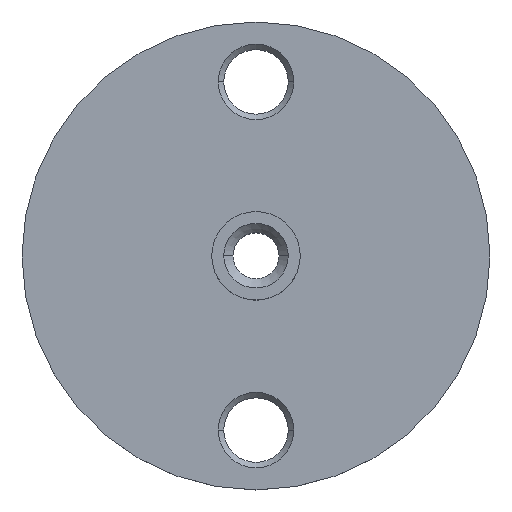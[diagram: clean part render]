
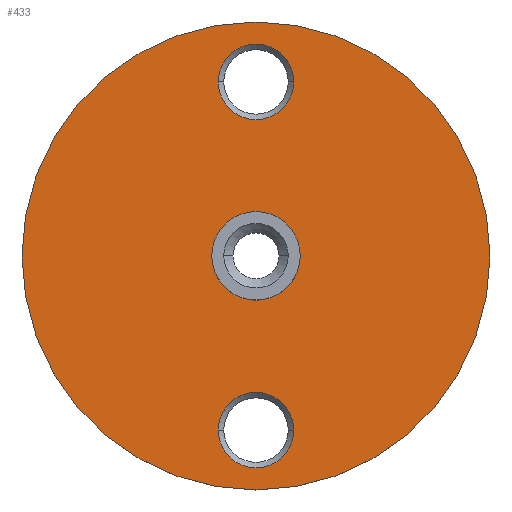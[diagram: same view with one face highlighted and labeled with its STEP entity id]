
A CAD part, top view. The second image highlights one B-rep face of the part: STEP entity #433.
In plain terms, the highlighted planar face has unit normal (0, 0, 1).
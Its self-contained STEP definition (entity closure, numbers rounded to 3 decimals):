
#3 = EDGE_CURVE ( 'NONE', #432, #485, #313, .T. ) ;
#5 = AXIS2_PLACEMENT_3D ( 'NONE', #554, #260, #57 ) ;
#19 = CARTESIAN_POINT ( 'NONE',  ( 0., 0., 1. ) ) ;
#24 = CIRCLE ( 'NONE', #230, 2.05 ) ;
#46 = CIRCLE ( 'NONE', #5, 2.4 ) ;
#56 = VERTEX_POINT ( 'NONE', #628 ) ;
#57 = DIRECTION ( 'NONE',  ( 1., 0., 0. ) ) ;
#74 = ORIENTED_EDGE ( 'NONE', *, *, #3, .T. ) ;
#79 = CARTESIAN_POINT ( 'NONE',  ( 12.7, 0., 1. ) ) ;
#91 = FACE_OUTER_BOUND ( 'NONE', #656, .T. ) ;
#97 = CARTESIAN_POINT ( 'NONE',  ( 2.05, -9.45, 1. ) ) ;
#105 = ORIENTED_EDGE ( 'NONE', *, *, #574, .F. ) ;
#115 = CARTESIAN_POINT ( 'NONE',  ( -2.4, 0., 1. ) ) ;
#120 = AXIS2_PLACEMENT_3D ( 'NONE', #19, #629, #304 ) ;
#127 = DIRECTION ( 'NONE',  ( 1., 0., 0. ) ) ;
#146 = CIRCLE ( 'NONE', #436, 12.7 ) ;
#161 = EDGE_LOOP ( 'NONE', ( #74, #444 ) ) ;
#169 = DIRECTION ( 'NONE',  ( -1., 0., 0. ) ) ;
#180 = VERTEX_POINT ( 'NONE', #79 ) ;
#182 = DIRECTION ( 'NONE',  ( 0., 0., -1. ) ) ;
#198 = FACE_BOUND ( 'NONE', #330, .T. ) ;
#205 = VERTEX_POINT ( 'NONE', #308 ) ;
#230 = AXIS2_PLACEMENT_3D ( 'NONE', #510, #562, #453 ) ;
#246 = CARTESIAN_POINT ( 'NONE',  ( 0., 0., 1. ) ) ;
#259 = CARTESIAN_POINT ( 'NONE',  ( 2.05, 9.45, 1. ) ) ;
#260 = DIRECTION ( 'NONE',  ( 0., 0., 1. ) ) ;
#267 = AXIS2_PLACEMENT_3D ( 'NONE', #589, #409, #352 ) ;
#287 = CIRCLE ( 'NONE', #661, 2.05 ) ;
#290 = VERTEX_POINT ( 'NONE', #259 ) ;
#304 = DIRECTION ( 'NONE',  ( 1., 0., 0. ) ) ;
#308 = CARTESIAN_POINT ( 'NONE',  ( -2.05, 9.45, 1. ) ) ;
#310 = PLANE ( 'NONE',  #533 ) ;
#313 = CIRCLE ( 'NONE', #399, 2.05 ) ;
#330 = EDGE_LOOP ( 'NONE', ( #665, #347 ) ) ;
#347 = ORIENTED_EDGE ( 'NONE', *, *, #671, .T. ) ;
#348 = DIRECTION ( 'NONE',  ( -1., 0., 0. ) ) ;
#352 = DIRECTION ( 'NONE',  ( -1., 0., 0. ) ) ;
#359 = DIRECTION ( 'NONE',  ( 1., 0., 0. ) ) ;
#397 = ORIENTED_EDGE ( 'NONE', *, *, #496, .F. ) ;
#399 = AXIS2_PLACEMENT_3D ( 'NONE', #615, #506, #169 ) ;
#409 = DIRECTION ( 'NONE',  ( 0., 0., -1. ) ) ;
#425 = FACE_BOUND ( 'NONE', #161, .T. ) ;
#432 = VERTEX_POINT ( 'NONE', #97 ) ;
#433 = ADVANCED_FACE ( 'NONE', ( #198, #425, #643, #91 ), #310, .T. ) ;
#436 = AXIS2_PLACEMENT_3D ( 'NONE', #571, #520, #359 ) ;
#444 = ORIENTED_EDGE ( 'NONE', *, *, #716, .T. ) ;
#446 = CARTESIAN_POINT ( 'NONE',  ( -2.05, -9.45, 1. ) ) ;
#453 = DIRECTION ( 'NONE',  ( -1., 0., 0. ) ) ;
#461 = CARTESIAN_POINT ( 'NONE',  ( 0., 0., 1. ) ) ;
#467 = ORIENTED_EDGE ( 'NONE', *, *, #677, .T. ) ;
#477 = DIRECTION ( 'NONE',  ( 1., 0., 0. ) ) ;
#485 = VERTEX_POINT ( 'NONE', #446 ) ;
#496 = EDGE_CURVE ( 'NONE', #56, #573, #46, .T. ) ;
#500 = ORIENTED_EDGE ( 'NONE', *, *, #682, .T. ) ;
#506 = DIRECTION ( 'NONE',  ( 0., 0., -1. ) ) ;
#510 = CARTESIAN_POINT ( 'NONE',  ( 0., 9.45, 1. ) ) ;
#516 = DIRECTION ( 'NONE',  ( 0., 0., 1. ) ) ;
#520 = DIRECTION ( 'NONE',  ( 0., 0., 1. ) ) ;
#533 = AXIS2_PLACEMENT_3D ( 'NONE', #246, #646, #477 ) ;
#539 = CIRCLE ( 'NONE', #650, 2.4 ) ;
#544 = VERTEX_POINT ( 'NONE', #722 ) ;
#550 = CIRCLE ( 'NONE', #120, 12.7 ) ;
#554 = CARTESIAN_POINT ( 'NONE',  ( 0., 0., 1. ) ) ;
#562 = DIRECTION ( 'NONE',  ( 0., 0., -1. ) ) ;
#571 = CARTESIAN_POINT ( 'NONE',  ( 0., 0., 1. ) ) ;
#573 = VERTEX_POINT ( 'NONE', #115 ) ;
#574 = EDGE_CURVE ( 'NONE', #573, #56, #539, .T. ) ;
#589 = CARTESIAN_POINT ( 'NONE',  ( 0., -9.45, 1. ) ) ;
#615 = CARTESIAN_POINT ( 'NONE',  ( 0., -9.45, 1. ) ) ;
#616 = CIRCLE ( 'NONE', #267, 2.05 ) ;
#626 = CARTESIAN_POINT ( 'NONE',  ( 0., 9.45, 1. ) ) ;
#628 = CARTESIAN_POINT ( 'NONE',  ( 2.4, 0., 1. ) ) ;
#629 = DIRECTION ( 'NONE',  ( 0., 0., 1. ) ) ;
#635 = EDGE_CURVE ( 'NONE', #290, #205, #24, .T. ) ;
#643 = FACE_BOUND ( 'NONE', #657, .T. ) ;
#646 = DIRECTION ( 'NONE',  ( 0., 0., 1. ) ) ;
#650 = AXIS2_PLACEMENT_3D ( 'NONE', #461, #516, #127 ) ;
#656 = EDGE_LOOP ( 'NONE', ( #500, #467 ) ) ;
#657 = EDGE_LOOP ( 'NONE', ( #105, #397 ) ) ;
#661 = AXIS2_PLACEMENT_3D ( 'NONE', #626, #182, #348 ) ;
#665 = ORIENTED_EDGE ( 'NONE', *, *, #635, .T. ) ;
#671 = EDGE_CURVE ( 'NONE', #205, #290, #287, .T. ) ;
#677 = EDGE_CURVE ( 'NONE', #544, #180, #146, .T. ) ;
#682 = EDGE_CURVE ( 'NONE', #180, #544, #550, .T. ) ;
#716 = EDGE_CURVE ( 'NONE', #485, #432, #616, .T. ) ;
#722 = CARTESIAN_POINT ( 'NONE',  ( -12.7, 0., 1. ) ) ;
